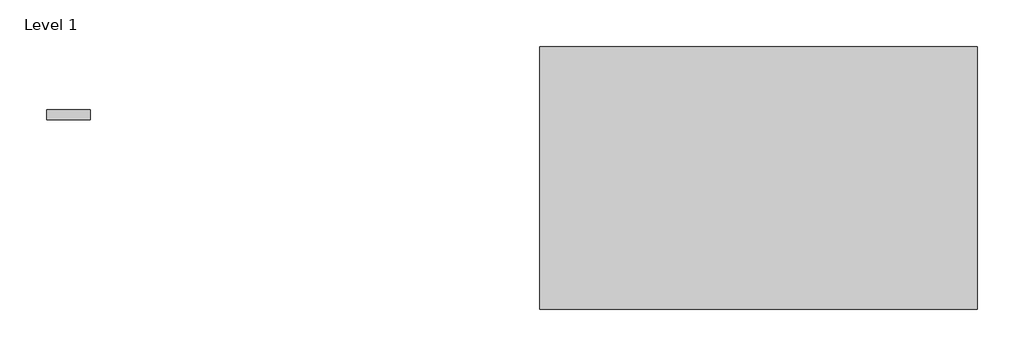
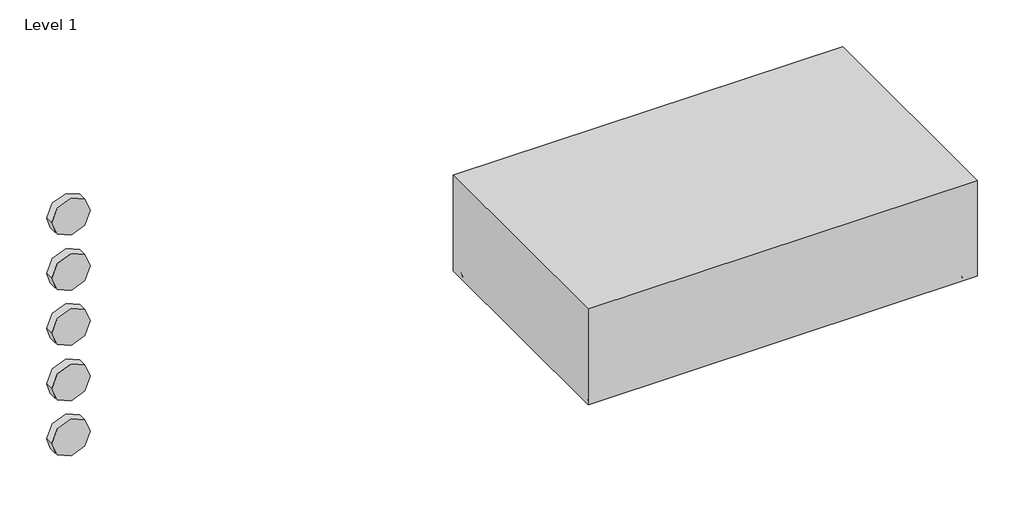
# One storey: 5 proxies, 1 furniture element.
"""IFC4 building model written with IfcOpenShell, lengths in millimetres."""

from ifc_helpers import new_model, si_unit, origin, place, context, project, spatial, transform, mapped, element, save
from components import materialmodel_materialmodel_aa49be07, furniture_d3fda9a2

model = new_model("IFC4")

# Units and contexts
model_context = context("Model", 3, world=origin())
ifc_project = project(units=[si_unit("LENGTHUNIT", "METRE", prefix="MILLI")], contexts=[model_context])

# Site, building, storey
site = spatial("IfcSite", under=ifc_project)
building = spatial("IfcBuilding", under=site)
storey = spatial("IfcBuildingStorey", under=building, Name="Level 1", Elevation=0.0)

# Proxies
placement = place(None, origin())
materialmodel_materialmodel_shape = materialmodel_materialmodel_aa49be07(model_context)
element("IfcBuildingElementProxy", 1, Name="MaterialModel : MaterialModel", ObjectType="MaterialModel : MaterialModel", at=placement, inside=storey, context=model_context, shape_type="MappedRepresentation", body=[
    mapped(materialmodel_materialmodel_shape, transform((-4168.3714612, 3483.5454579, 625.0), x_axis=(1.0, 0.0, 0.0), y_axis=(0.0, 1.0, 0.0), z_axis=(0.0, 0.0, 1.0))),
])
element("IfcBuildingElementProxy", 2, Name="MaterialModel : MaterialModel", ObjectType="MaterialModel : MaterialModel", at=placement, inside=storey, context=model_context, shape_type="MappedRepresentation", body=[
    mapped(materialmodel_materialmodel_shape, transform((-4168.3714612, 3483.5454579, 475.0), x_axis=(1.0, 0.0, 0.0), y_axis=(0.0, 1.0, 0.0), z_axis=(0.0, 0.0, 1.0))),
])
element("IfcBuildingElementProxy", 3, Name="MaterialModel : MaterialModel", ObjectType="MaterialModel : MaterialModel", at=placement, inside=storey, context=model_context, shape_type="MappedRepresentation", body=[
    mapped(materialmodel_materialmodel_shape, transform((-4168.3714612, 3483.5454579, 325.0), x_axis=(1.0, 0.0, 0.0), y_axis=(0.0, 1.0, 0.0), z_axis=(0.0, 0.0, 1.0))),
])
element("IfcBuildingElementProxy", 4, Name="MaterialModel : MaterialModel", ObjectType="MaterialModel : MaterialModel", at=placement, inside=storey, context=model_context, shape_type="MappedRepresentation", body=[
    mapped(materialmodel_materialmodel_shape, transform((-4168.3714612, 3483.5454579, 175.0), x_axis=(1.0, 0.0, 0.0), y_axis=(0.0, 1.0, 0.0), z_axis=(0.0, 0.0, 1.0))),
])
element("IfcBuildingElementProxy", 5, Name="MaterialModel : MaterialModel", ObjectType="MaterialModel : MaterialModel", at=placement, inside=storey, context=model_context, shape_type="MappedRepresentation", body=[
    mapped(materialmodel_materialmodel_shape, transform((-4168.3714612, 3483.5454579, 25.0), x_axis=(1.0, 0.0, 0.0), y_axis=(0.0, 1.0, 0.0), z_axis=(0.0, 0.0, 1.0))),
])

# Furniture
furniture_shape = furniture_d3fda9a2(model_context)
element("IfcFurniture", 6, ObjectType="Audo Copenhagen - Plinth - Low : Audo Copenhagen - Plinth - Low", at=placement, inside=storey, context=model_context, shape_type="MappedRepresentation", body=[
    mapped(furniture_shape, transform((-2590.4649448, 3339.4670228, 0.0), x_axis=(1.0, 0.0, 0.0), y_axis=(0.0, 1.0, 0.0), z_axis=(0.0, 0.0, 1.0))),
])

save(model, "model.ifc")
